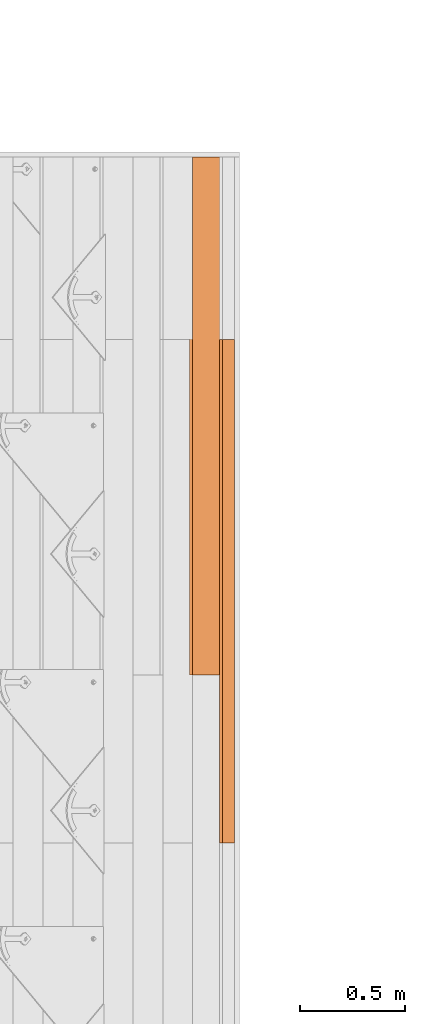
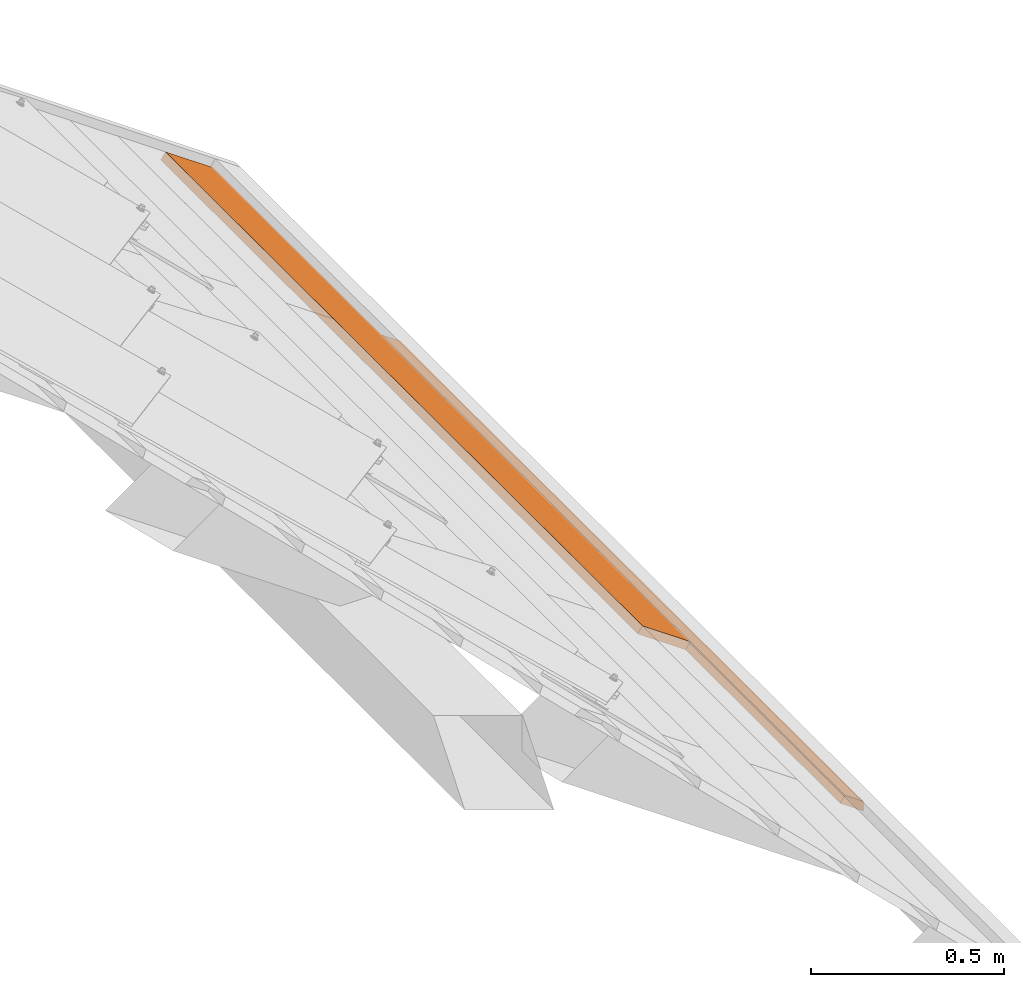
# One storey, part 107 of 151: 2 proxies, 1 element without a shape of its own.
"""IFC2X3 building model written with IfcOpenShell, lengths in millimetres."""

from ifc_helpers import new_model, entity, si_unit, converted_unit, derived_unit, direction, frame, frame_2d, origin, place, context, subcontext, project, spatial, polyline, rectangle, outline, extrude, source, transform, mapped, material, type_object, type_shapes, element, aggregate, save


model = new_model("IFC2X3")

# Units and contexts
model_context = context("Model", 3, precision=0.01, world=origin(), true_north=direction((6.12303176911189e-17, 1.0)))
body_context = subcontext(model_context, "Body", "Model", "MODEL_VIEW")
ifc_project = project(units=[si_unit("LENGTHUNIT", "METRE", prefix="MILLI"), si_unit("AREAUNIT", "SQUARE_METRE"), si_unit("VOLUMEUNIT", "CUBIC_METRE"), converted_unit("PLANEANGLEUNIT", "DEGREE", entity("IfcRatioMeasure", 0.0174532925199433), si_unit("PLANEANGLEUNIT", "RADIAN"), dimensions=[0, 0, 0, 0, 0, 0, 0]), si_unit("MASSUNIT", "GRAM", prefix="KILO"), derived_unit("MASSDENSITYUNIT", [(si_unit("MASSUNIT", "GRAM", prefix="KILO"), 1), (si_unit("LENGTHUNIT", "METRE"), -3)]), si_unit("TIMEUNIT", "SECOND"), si_unit("FREQUENCYUNIT", "HERTZ"), si_unit("THERMODYNAMICTEMPERATUREUNIT", "DEGREE_CELSIUS"), derived_unit("THERMALTRANSMITTANCEUNIT", [(si_unit("MASSUNIT", "GRAM", prefix="KILO"), 1), (si_unit("THERMODYNAMICTEMPERATUREUNIT", "KELVIN"), -1), (si_unit("TIMEUNIT", "SECOND"), -3)]), derived_unit("VOLUMETRICFLOWRATEUNIT", [(si_unit("LENGTHUNIT", "METRE"), 3), (si_unit("TIMEUNIT", "SECOND"), -1)]), si_unit("ELECTRICCURRENTUNIT", "AMPERE"), si_unit("ELECTRICVOLTAGEUNIT", "VOLT"), si_unit("POWERUNIT", "WATT"), si_unit("FORCEUNIT", "NEWTON", prefix="KILO"), si_unit("ILLUMINANCEUNIT", "LUX"), si_unit("LUMINOUSFLUXUNIT", "LUMEN"), si_unit("LUMINOUSINTENSITYUNIT", "CANDELA"), derived_unit("USERDEFINED", [(si_unit("MASSUNIT", "GRAM", prefix="KILO"), -1), (si_unit("LENGTHUNIT", "METRE"), -2), (si_unit("TIMEUNIT", "SECOND"), 3), (si_unit("LUMINOUSFLUXUNIT", "LUMEN"), 1)]), derived_unit("LINEARVELOCITYUNIT", [(si_unit("LENGTHUNIT", "METRE"), 1), (si_unit("TIMEUNIT", "SECOND"), -1)]), si_unit("PRESSUREUNIT", "PASCAL"), derived_unit("USERDEFINED", [(si_unit("LENGTHUNIT", "METRE"), -2), (si_unit("MASSUNIT", "GRAM", prefix="KILO"), 1), (si_unit("TIMEUNIT", "SECOND"), -2)])], contexts=[model_context])

# Site, building, storey
site_placement = place(None, origin())
site = spatial("IfcSite", under=ifc_project, at=site_placement, Name="Default", CompositionType="ELEMENT")
building_placement = place(site_placement, origin())
building = spatial("IfcBuilding", under=site, at=building_placement, CompositionType="ELEMENT")
storey_placement = place(building_placement, origin())
storey = spatial("IfcBuildingStorey", under=building, at=storey_placement, Name="Level 1", CompositionType="ELEMENT", Elevation=0.0)

# Assembly, proxies
assembly_placement = place(storey_placement, origin())
assembly = element("IfcElementAssembly", 1, at=assembly_placement, inside=storey, Name="Structural Framing Assembly:Roof Construction Assembly", ObjectType="Structural Framing Assembly:Roof Construction Assembly", AssemblyPlace="NOTDEFINED", PredefinedType="USERDEFINED")
ifc_material = material(Name="Wood - Generic - Wood For Showcase")
building_element_proxy_type_1 = type_object("IfcBuildingElementProxyType", Name="Structural Framing 15", PredefinedType="NOTDEFINED", material=ifc_material)
shared_shape_1 = source(origin(), body_context, "Body", "SweptSolid", [
    extrude(rectangle(XDim=24.9999999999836, YDim=174.344679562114, at=frame_2d((3.73923114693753e-13, 6.3948846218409e-14), x_axis=(1.0, 0.0))), frame((1285.35601305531, 1455.55080214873, 2760.23940055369), z_axis=(0.0, 1.0, 0.0), x_axis=(0.573576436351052, 0.0, 0.819152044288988)), (0.0, 0.0, 1.0), 2469.99999999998),
])
type_shapes(building_element_proxy_type_1, [shared_shape_1])
proxy_1_placement = place(assembly_placement, frame((3770.67268864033, 0.0, -2600.0)))
proxy_1 = element("IfcBuildingElementProxy", 2, at=proxy_1_placement, type_object=building_element_proxy_type_1, material=ifc_material, Name="Structural Framing 285:Structural Framing 15", ObjectType="Structural Framing 285:Structural Framing 15", context=body_context, shape_type="MappedRepresentation", body=[
    mapped(shared_shape_1, transform((0.0, 0.0, 0.0), scale=1.0)),
])
building_element_proxy_type_2 = type_object("IfcBuildingElementProxyType", Name="Structural Framing 15", PredefinedType="NOTDEFINED", material=ifc_material)
shared_shape_2 = source(origin(), body_context, "Body", "SweptSolid", [
    extrude(outline(polyline([(-12.4999999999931, -38.2231230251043), (12.4999999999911, -38.2231230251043), (12.4999999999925, 29.4705287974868), (-12.499999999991, 46.975717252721), (-12.4999999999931, -38.2231230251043)])), frame((5101.25878028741, -6581.94919785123, 88.3155178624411), z_axis=(0.0, 1.0, 0.0), x_axis=(0.573576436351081, 0.0, 0.819152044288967)), (0.0, 0.0, 1.0), 2399.99999999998),
])
type_shapes(building_element_proxy_type_2, [shared_shape_2])
proxy_2_placement = place(assembly_placement, frame((57.4878711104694, 7237.49999999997, 0.0)))
proxy_2 = element("IfcBuildingElementProxy", 3, at=proxy_2_placement, type_object=building_element_proxy_type_2, material=ifc_material, Name="Structural Framing 292:Structural Framing 15", ObjectType="Structural Framing 292:Structural Framing 15", context=body_context, shape_type="MappedRepresentation", body=[
    mapped(shared_shape_2, transform((0.0, 0.0, 0.0), scale=1.0)),
])
aggregate(assembly, [proxy_1, proxy_2])

save(model, "model.ifc")
